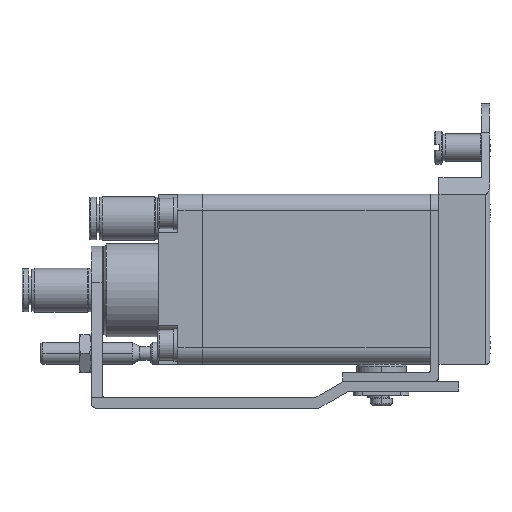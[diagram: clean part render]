
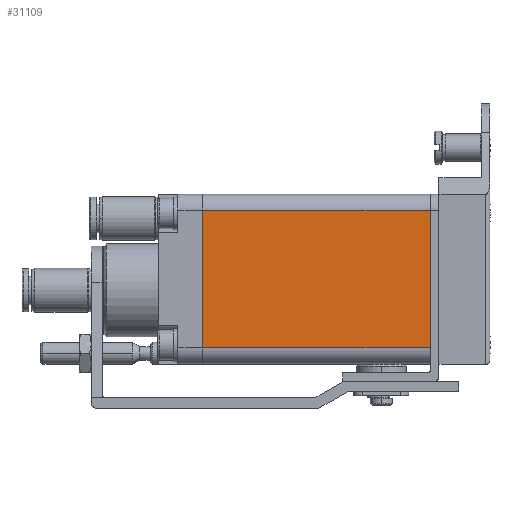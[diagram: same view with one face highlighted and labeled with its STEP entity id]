
A CAD part, left-side view. The second image highlights one B-rep face of the part: STEP entity #31109.
In plain terms, the highlighted planar face has unit normal (-1, 0, 0).
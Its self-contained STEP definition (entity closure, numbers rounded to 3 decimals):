
#1234 = DIRECTION ( 'NONE',  ( 0., 1., 0. ) ) ;
#1503 = LINE ( 'NONE', #10977, #28763 ) ;
#2340 = LINE ( 'NONE', #11901, #15607 ) ;
#2448 = EDGE_LOOP ( 'NONE', ( #21518, #16384, #34128, #25892 ) ) ;
#2915 = CARTESIAN_POINT ( 'NONE',  ( -11.5, 0., -12.5 ) ) ;
#3085 = PLANE ( 'NONE',  #25588 ) ;
#3205 = DIRECTION ( 'NONE',  ( -1., 0., 0. ) ) ;
#3495 = EDGE_CURVE ( 'NONE', #4022, #13162, #25439, .T. ) ;
#4022 = VERTEX_POINT ( 'NONE', #2915 ) ;
#5477 = CARTESIAN_POINT ( 'NONE',  ( -11.5, 0., 12.5 ) ) ;
#9172 = VERTEX_POINT ( 'NONE', #18858 ) ;
#10298 = CARTESIAN_POINT ( 'NONE',  ( -11.5, 0., 0. ) ) ;
#10977 = CARTESIAN_POINT ( 'NONE',  ( -11.5, 20.75, 12.5 ) ) ;
#11257 = DIRECTION ( 'NONE',  ( 0., 0., -1. ) ) ;
#11901 = CARTESIAN_POINT ( 'NONE',  ( -11.5, 20.75, -12.5 ) ) ;
#13162 = VERTEX_POINT ( 'NONE', #5477 ) ;
#14820 = EDGE_CURVE ( 'NONE', #23565, #9172, #33118, .T. ) ;
#15607 = VECTOR ( 'NONE', #1234, 1000. ) ;
#15750 = CARTESIAN_POINT ( 'NONE',  ( -11.5, 41.5, 12.5 ) ) ;
#16384 = ORIENTED_EDGE ( 'NONE', *, *, #17471, .T. ) ;
#16433 = CARTESIAN_POINT ( 'NONE',  ( -11.5, 41.5, 0. ) ) ;
#17471 = EDGE_CURVE ( 'NONE', #13162, #23565, #1503, .T. ) ;
#18858 = CARTESIAN_POINT ( 'NONE',  ( -11.5, 41.5, -12.5 ) ) ;
#18990 = CARTESIAN_POINT ( 'NONE',  ( -11.5, -4.15, -15. ) ) ;
#21518 = ORIENTED_EDGE ( 'NONE', *, *, #3495, .T. ) ;
#21642 = DIRECTION ( 'NONE',  ( 0., 0., 1. ) ) ;
#23565 = VERTEX_POINT ( 'NONE', #15750 ) ;
#24183 = FACE_OUTER_BOUND ( 'NONE', #2448, .T. ) ;
#24916 = EDGE_CURVE ( 'NONE', #4022, #9172, #2340, .T. ) ;
#25439 = LINE ( 'NONE', #10298, #32437 ) ;
#25588 = AXIS2_PLACEMENT_3D ( 'NONE', #18990, #3205, #21642 ) ;
#25892 = ORIENTED_EDGE ( 'NONE', *, *, #24916, .F. ) ;
#26090 = VECTOR ( 'NONE', #11257, 1000. ) ;
#27116 = DIRECTION ( 'NONE',  ( 0., 1., 0. ) ) ;
#28763 = VECTOR ( 'NONE', #27116, 1000. ) ;
#31109 = ADVANCED_FACE ( 'NONE', ( #24183 ), #3085, .T. ) ;
#31403 = DIRECTION ( 'NONE',  ( 0., 0., 1. ) ) ;
#32437 = VECTOR ( 'NONE', #31403, 1000. ) ;
#33118 = LINE ( 'NONE', #16433, #26090 ) ;
#34128 = ORIENTED_EDGE ( 'NONE', *, *, #14820, .T. ) ;
